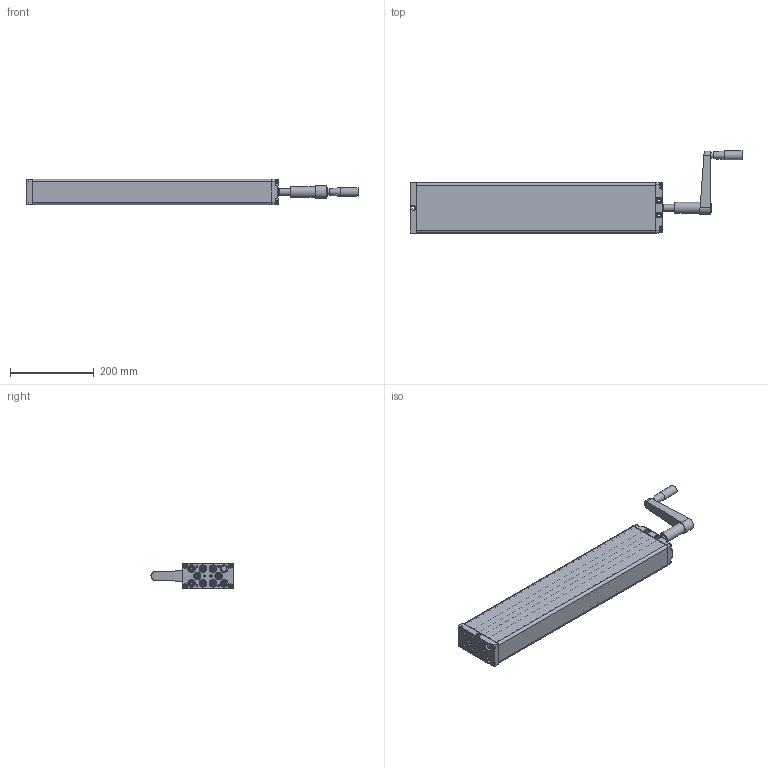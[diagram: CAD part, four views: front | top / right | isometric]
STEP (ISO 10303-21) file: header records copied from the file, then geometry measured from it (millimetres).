
FILE_DESCRIPTION(/* description */ ('Unknown'),/* implementation_level */ '2;1');
FILE_NAME(/* name */ '312.20274 Pumpe PB 9840 W mit Handkurbel',/* time_stamp */ '2016-11-25T15:11:15+01:00',/* author */ ('Unknown'),/* organization */ ('Unknown'),/* preprocessor_version */ 'ST-DEVELOPER v16.7',/* originating_system */ 'DEX',/* authorisation */ $);
FILE_SCHEMA (('AUTOMOTIVE_DESIGN {1 0 10303 214 3 1 1}'));
Products named in the file (23): 102.00274; 115.10034; 125.00061; 115.00008; 142.00021; 125.00021; 113.00005; 128.00001; 125.00052; 126.00013; 125.00053; 127.00014; Handgriff; 142.00013; 125.00144; 115.00140; 126.00006; 122.00040; 119.00044; 126.00036; 142.00057; 142.00083; 142.00017
Assembly tree (41 placements, depth 3):
  102.00274
    115.10034  x9
      125.00061
      115.00008
      142.00021
      125.00021
    113.00005
      128.00001
      125.00052
      126.00013
      125.00053
      127.00014
      Handgriff
    142.00013  x8
    125.00144
    115.00140
      126.00006
      122.00040
    119.00044
    126.00036
    142.00057
    142.00083  x4
    142.00017  x2
Bounding box: 790.75 x 195.5 x 60.3 mm (x, y, z)
Volume: 919043.6 mm3; surface area: 576460.8 mm2
Topology: 53 solids, 53 shells, 2290 faces, 5189 edges, 3047 vertices
Faces by surface type: plane 839, cylinder 523, bspline 380, cone 377, torus 112, sphere 59
Full cylindrical faces by diameter (mm): 3.5 x9, 4 x2, 4.1 x9, 4.134 x4, 4.2 x10, 4.917 x4, 5 x12, 5.8 x4, 6 x2, 6.8 x1, 6.917 x18, 8 x20, 8.5 x4, 9.8 x8, 10 x6, 10.4 x1, 10.5 x4, 12.5 x9, 12.8 x1, 13 x29, 14 x1, 14.4 x9, 16 x2, 17 x1, 17.9 x18, 18 x11, 19 x1, 20.6 x1, 21 x1, 22 x1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
Entity records: 64077 total; most frequent: CARTESIAN_POINT 30508, ORIENTED_EDGE 5368, DIRECTION 4821, EDGE_CURVE 2684, AXIS2_PLACEMENT_3D 1877, VERTEX_POINT 1709, FACE_BOUND 1541, EDGE_LOOP 1538
